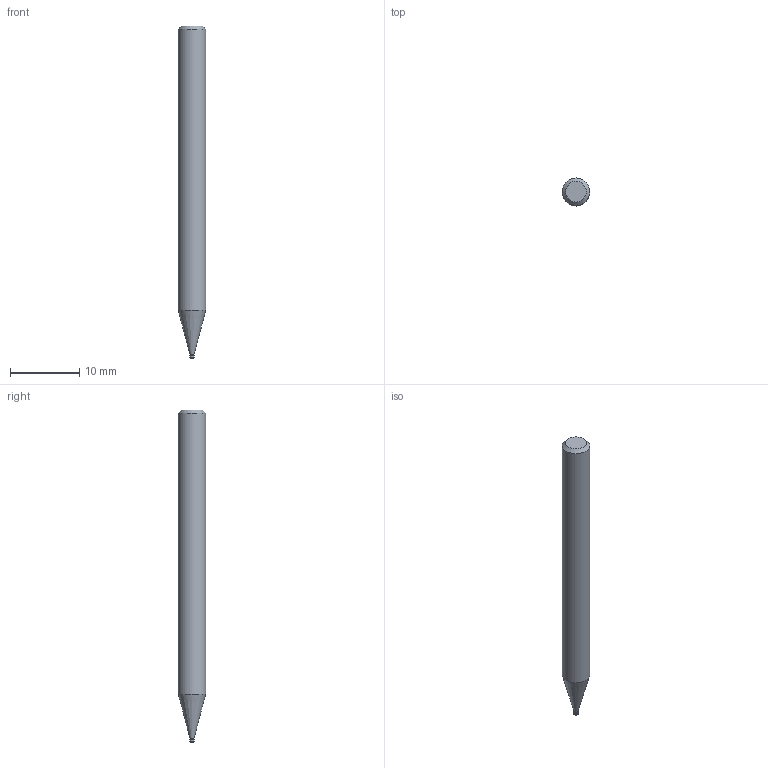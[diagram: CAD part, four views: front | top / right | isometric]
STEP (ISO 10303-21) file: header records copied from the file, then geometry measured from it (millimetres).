
FILE_DESCRIPTION((''),'2;1');
FILE_NAME('C:\Users\nsx150\AppData\Local\Temp\Mastercam 2021\LJSIDMOTM8\TEMP.step','2021-08-03T14:04:20',(''),(''),'STEP Write','Mastercam 2021 ... CNC Software, Inc.','');
FILE_SCHEMA(('AUTOMOTIVE_DESIGN'));
Length unit declared in the file: millimetre
Products named in the file (1): None
Bounding box: 4 x 4 x 48 mm (x, y, z)
Volume: 546.1 mm3; surface area: 574.1 mm2
Topology: 2 solids, 2 shells, 10 faces, 14 edges, 8 vertices
Faces by surface type: plane 4, cylinder 3, cone 2, torus 1
Full cylindrical faces by diameter (mm): 0.56 x1, 0.6 x1, 4 x1
Entity records: 232 total; most frequent: DIRECTION 40, CARTESIAN_POINT 28, AXIS2_PLACEMENT_3D 20, ORIENTED_EDGE 16, EDGE_LOOP 16, STYLED_ITEM 13, ADVANCED_FACE 10, FACE_BOUND 10
